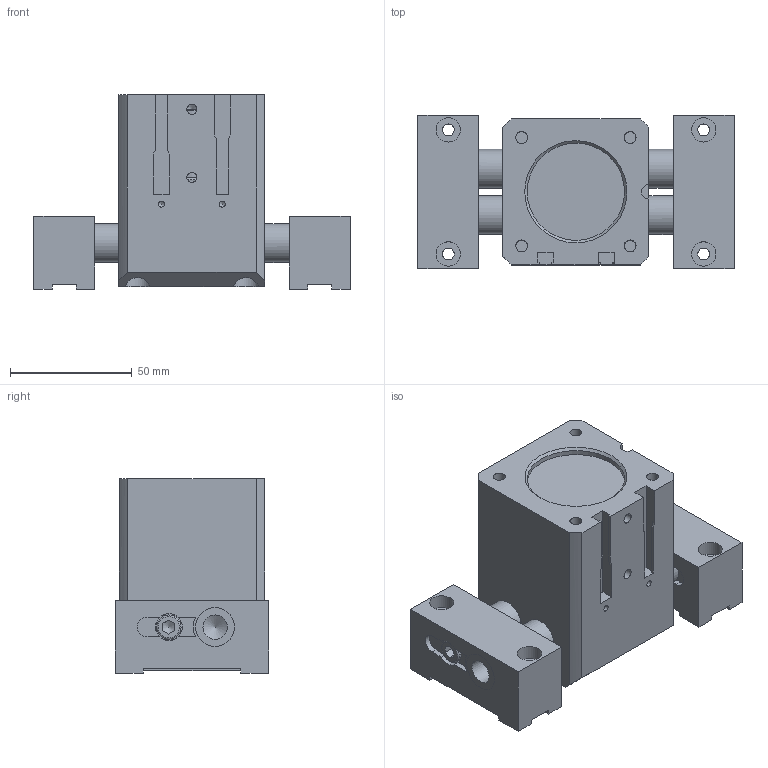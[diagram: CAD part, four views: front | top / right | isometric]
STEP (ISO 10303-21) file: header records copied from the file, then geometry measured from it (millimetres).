
FILE_DESCRIPTION((''),'2;1');
FILE_NAME('T:\CAD\Standard\Daten\3D-Datenbank\GP\4 - 3D-CAD-Daten GP 050-125\GP080\step-Daten\G-GP080-l2-GÖ+UB open.stp','2013-11-07T10:15:55',('Dirk'),(''),'Autodesk Inventor 2011','Autodesk Inventor 2011','');
FILE_SCHEMA(('AUTOMOTIVE_DESIGN { 1 0 10303 214 1 1 1 1 }'));
Length unit declared in the file: millimetre
Products named in the file (1): Bauteil19
Bounding box: 130.01 x 63 x 80 mm (x, y, z)
Volume: 313290.8 mm3; surface area: 92750.8 mm2
Topology: 1 solids, 19 shells, 417 faces, 1038 edges, 668 vertices
Faces by surface type: plane 240, cylinder 115, cone 34, torus 27, bspline 1
Full cylindrical faces by diameter (mm): 2.459 x2, 4.134 x2, 4.917 x10, 6 x6, 6.5 x4, 6.6 x2, 8.376 x1, 10 x13, 10.5 x1, 11 x8, 16 x6, 18 x7, 20 x2, 24.4 x2, 26 x2, 35 x1, 36 x2, 40 x2, 40.2 x2, 47.1 x2, 50 x6
Entity records: 12703 total; most frequent: CARTESIAN_POINT 3096, DIRECTION 1916, ORIENTED_EDGE 1668, EDGE_CURVE 834, AXIS2_PLACEMENT_3D 737, EDGE_LOOP 635, VERTEX_POINT 604, VECTOR 442
